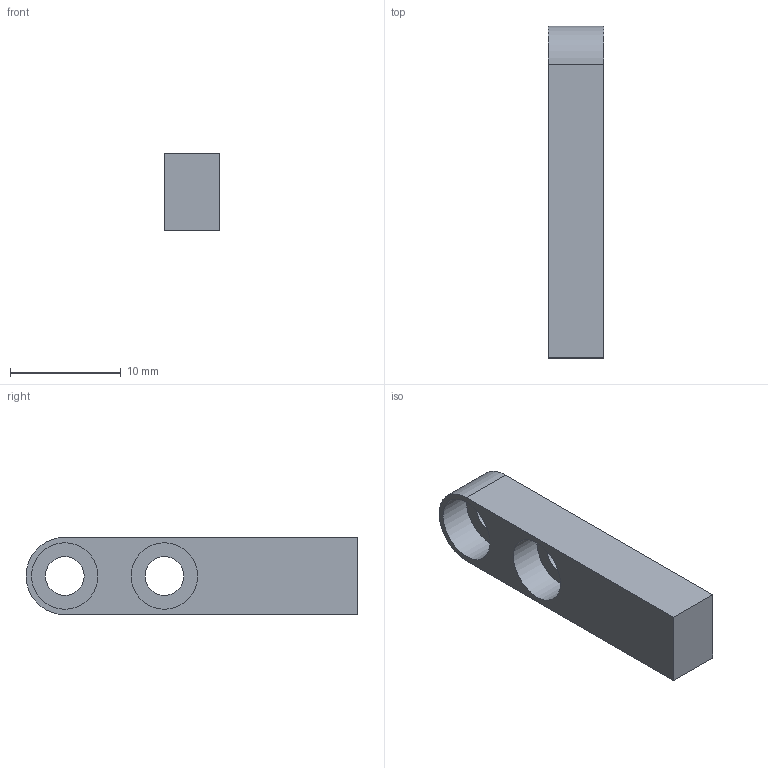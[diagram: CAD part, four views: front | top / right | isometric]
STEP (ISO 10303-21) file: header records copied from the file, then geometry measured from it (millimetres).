
FILE_DESCRIPTION(/* description */ ('STEP AP242 Edition 2','CAx-IF Rec.Pracs.---Representation and Presentation of Product Manufacturing Information (PMI)---4.0---2014-10-13','CAx-IF Rec.Pracs.---3D Tessellated Geometry---0.4---2014-09-14','2;1','CAx-IF Rec.Pracs.---User Defined Attributes---1.5---2016-08-15'),/* implementation_level */ '2;1');
FILE_NAME(/* name */ 'bb_v3 - add-on-mockup',/* time_stamp */ '2026-05-01T07:59:48Z',/* author */ (''),/* organization */ (''),/* preprocessor_version */ 'ST-DEVELOPER v20',/* originating_system */ 'ONSHAPE BY PTC INC, 1.214',/* authorisation */ ' ');
FILE_SCHEMA (('AP242_MANAGED_MODEL_BASED_3D_ENGINEERING_MIM_LF { 1 0 10303 442 3 1 4 }'));
Length unit declared in the file: metre
Products named in the file (1): add-on-mockup
Bounding box: 5 x 29.99 x 7 mm (x, y, z)
Volume: 815.3 mm3; surface area: 882.9 mm2
Topology: 1 solids, 1 shells, 12 faces, 24 edges, 16 vertices
Faces by surface type: plane 7, cylinder 5
Full cylindrical faces by diameter (mm): 3.5 x2, 6 x2
Entity records: 328 total; most frequent: DIRECTION 56, CARTESIAN_POINT 49, ORIENTED_EDGE 40, AXIS2_PLACEMENT_3D 23, EDGE_LOOP 22, FACE_BOUND 22, EDGE_CURVE 20, VERTEX_POINT 16
